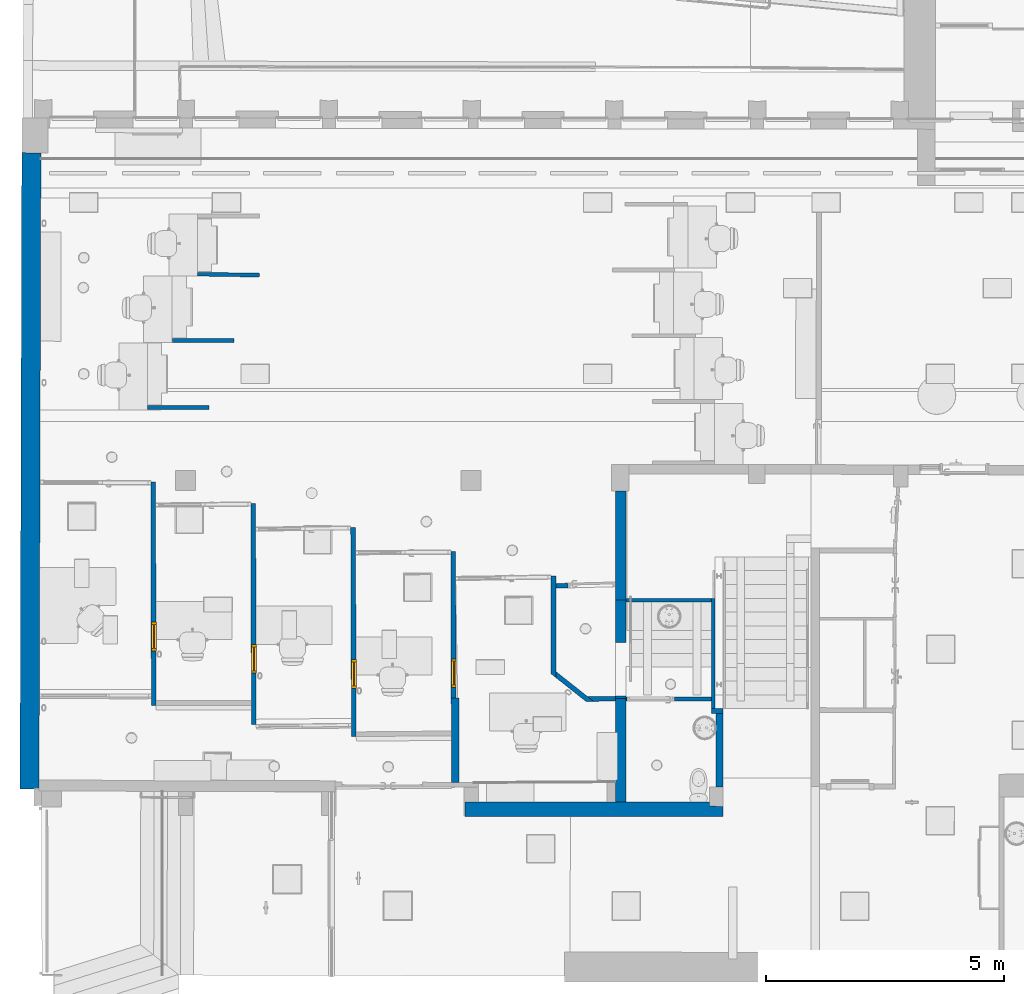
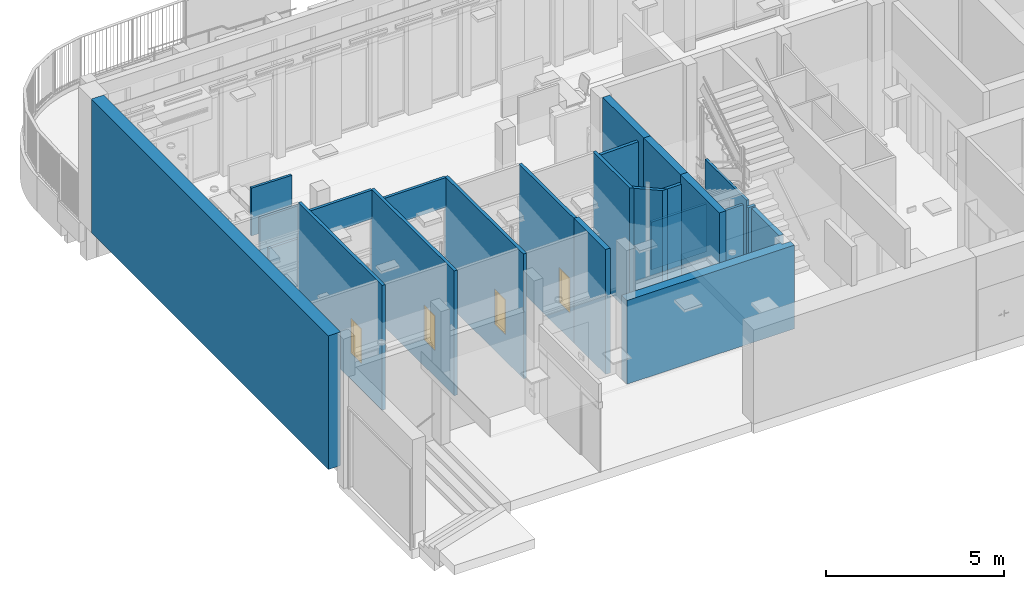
# One storey, part 26 of 128: 24 walls, 4 windows, 10 openings.
"""IFC2X3 building model written with IfcOpenShell, lengths in metres."""

import ifcopenshell
import ifcopenshell.guid

model = None  # the IFC model being written
_history = None  # IfcOwnerHistory: only IFC2X3 demands one
_inside = {}  # id of a spatial element -> (the spatial element, [elements in it])
_under = {}  # id of a project, library or spatial element -> (it, [spatial elements below it])
_declared = {}  # id of a project -> (the project, [libraries it declares])
_typed = {}  # id of a type object -> (the type object, [elements of that type])
_made_of = {}  # id of a material, layer set ... -> (it, [elements and type objects made of it])


def new_model(schema):
    """Start an empty IFC model of exactly this schema.

    Asked for "IFC4X3", IfcOpenShell would pick the latest addendum, in which some entities
    have other attributes; the version numbers below select the first issue.
    IFC2X3 requires an IfcOwnerHistory on every rooted entity: one is made here for all.
    """
    global model, _history
    if schema == "IFC4X3":
        model = ifcopenshell.file(schema_version=(4, 3, 0, 0))
    else:
        model = ifcopenshell.file(schema=schema)
    _inside.clear()
    _under.clear()
    _declared.clear()
    _typed.clear()
    _made_of.clear()
    _history = None
    if model.schema == "IFC2X3":
        org = make("IfcOrganization", Name="unknown")
        user = make(
            "IfcPersonAndOrganization",
            ThePerson=make("IfcPerson", FamilyName="unknown"),
            TheOrganization=org,
        )
        app = make(
            "IfcApplication",
            ApplicationDeveloper=org,
            Version="unknown",
            ApplicationFullName="unknown",
            ApplicationIdentifier="unknown",
        )
        _history = make(
            "IfcOwnerHistory",
            OwningUser=user,
            OwningApplication=app,
            ChangeAction="ADDED",
            CreationDate=0,
        )
    return model


def make(cls, **values):
    """One entity of the class cls with the attributes given. An attribute that is None is left unset."""
    return model.create_entity(
        cls, **{name: value for name, value in values.items() if value is not None}
    )


def entity(cls, *values):
    """Any entity or typed value of the class cls, its attributes in the order of the schema. None: left unset."""
    e = model.create_entity(cls)
    for i, value in enumerate(values):
        if value is not None:
            e[i] = value
    return e


def rooted(cls, **values):
    """An entity with a GlobalId (a new one), such as an element, a storey or a relation."""
    return make(cls, GlobalId=ifcopenshell.guid.new(), OwnerHistory=_history, **values)


def si_unit(unit_type, name, prefix=None):
    """IfcSIUnit, for example si_unit("LENGTHUNIT", "METRE", prefix="MILLI")."""
    return make("IfcSIUnit", UnitType=unit_type, Prefix=prefix, Name=name)


def converted_unit(unit_type, name, factor, base, dimensions=None, offset=None):
    """IfcConversionBasedUnit, such as the inch: factor (a typed value) times the base unit."""
    return make(
        "IfcConversionBasedUnit"
        if offset is None
        else "IfcConversionBasedUnitWithOffset",
        ConversionOffset=offset,
        Dimensions=None
        if dimensions is None
        else entity("IfcDimensionalExponents", *dimensions),
        UnitType=unit_type,
        Name=name,
        ConversionFactor=make(
            "IfcMeasureWithUnit", ValueComponent=factor, UnitComponent=base
        ),
    )


def derived_unit(unit_type, elements):
    """IfcDerivedUnit: a product of units, each with its exponent."""
    return make(
        "IfcDerivedUnit",
        Elements=[
            make("IfcDerivedUnitElement", Unit=unit, Exponent=power)
            for unit, power in elements
        ],
        UnitType=unit_type,
    )


def assignment(units):
    """IfcUnitAssignment: the units of a project."""
    return None if units is None else make("IfcUnitAssignment", Units=units)


def point(xyz):
    """IfcCartesianPoint."""
    return None if xyz is None else make("IfcCartesianPoint", Coordinates=xyz)


def direction(xyz):
    """IfcDirection."""
    return None if xyz is None else make("IfcDirection", DirectionRatios=xyz)


def frame(location, z_axis=None, x_axis=None):
    """IfcAxis2Placement3D, a coordinate frame: its origin and axes. An axis left out is left unset."""
    return make(
        "IfcAxis2Placement3D",
        Location=point(location),
        Axis=direction(z_axis),
        RefDirection=direction(x_axis),
    )


def frame_2d(location, x_axis=None):
    """IfcAxis2Placement2D, a coordinate frame in the plane: its origin and x axis."""
    return make(
        "IfcAxis2Placement2D", Location=point(location), RefDirection=direction(x_axis)
    )


def origin():
    """The frame at (0, 0, 0) with its axes left unset."""
    return frame((0.0, 0.0, 0.0))


def origin_2d_with_axis():
    """The frame at (0, 0) in the plane with the x axis (1, 0) written out."""
    return frame_2d((0.0, 0.0), x_axis=(1.0, 0.0))


def place(relative_to, where):
    """IfcLocalPlacement: puts the frame where relative to a parent placement (None: the world)."""
    return make(
        "IfcLocalPlacement", PlacementRelTo=relative_to, RelativePlacement=where
    )


def context(
    kind, dimensions, precision=None, world=None, true_north=None, identifier=None
):
    """IfcGeometricRepresentationContext, for example the 3D "Model" context."""
    return make(
        "IfcGeometricRepresentationContext",
        ContextIdentifier=identifier,
        ContextType=kind,
        CoordinateSpaceDimension=dimensions,
        Precision=precision,
        WorldCoordinateSystem=world,
        TrueNorth=true_north,
    )


def subcontext(parent, identifier, kind, view, scale=None):
    """IfcGeometricRepresentationSubContext, for example "Body" below "Model"."""
    return make(
        "IfcGeometricRepresentationSubContext",
        ContextIdentifier=identifier,
        ContextType=kind,
        ParentContext=parent,
        TargetScale=scale,
        TargetView=view,
    )


def project(units=None, contexts=None):
    """IfcProject with its units and contexts."""
    return rooted(
        "IfcProject",
        Name="project",
        RepresentationContexts=contexts,
        UnitsInContext=assignment(units),
    )


def spatial(cls, under=None, at=None, **own):
    """A site, building, storey or space (cls), placed at a placement, below another one or the project."""
    s = rooted(cls, ObjectPlacement=at, **own)
    if under is not None:
        _under.setdefault(under.id(), (under, []))[1].append(s)
    return s


def polyline(points):
    """IfcPolyline through the points."""
    return make("IfcPolyline", Points=[point(p) for p in points])


def profile(cls, at=None, kind="AREA", **sizes):
    """A parametric profile (cls). Its sizes go by their IFC names, for example OverallWidth=200.0."""
    return make(cls, ProfileType=kind, Position=at, **sizes)


def rectangle(**sizes):
    """IfcRectangleProfileDef."""
    return profile("IfcRectangleProfileDef", **sizes)


def outline(outer, holes=None, kind="AREA"):
    """IfcArbitraryClosedProfileDef: a profile drawn as a closed curve; with holes, ...WithVoids."""
    if holes is None:
        return make("IfcArbitraryClosedProfileDef", ProfileType=kind, OuterCurve=outer)
    return make(
        "IfcArbitraryProfileDefWithVoids",
        ProfileType=kind,
        OuterCurve=outer,
        InnerCurves=holes,
    )


def extrude(swept, where, along, depth):
    """IfcExtrudedAreaSolid: the profile swept, set in the frame where, extruded along a direction by depth."""
    return make(
        "IfcExtrudedAreaSolid",
        SweptArea=swept,
        Position=where,
        ExtrudedDirection=direction(along),
        Depth=depth,
    )


def clip(a, b, op="DIFFERENCE"):
    """IfcBooleanClippingResult: the solid a cut by the half space b."""
    return make(
        "IfcBooleanClippingResult", Operator=op, FirstOperand=a, SecondOperand=b
    )


def bounded_halfspace(plane, agree, where, boundary):
    """IfcPolygonalBoundedHalfSpace: a half space limited to a polygon's prism."""
    return make(
        "IfcPolygonalBoundedHalfSpace",
        BaseSurface=make("IfcPlane", Position=plane),
        AgreementFlag=agree,
        Position=where,
        PolygonalBoundary=boundary,
    )


def shape(context_of_items, identifier, shape_type, items):
    """IfcShapeRepresentation: the items that make up one representation, for example the "Body"."""
    return make(
        "IfcShapeRepresentation",
        ContextOfItems=context_of_items,
        RepresentationIdentifier=identifier,
        RepresentationType=shape_type,
        Items=items,
    )


def source(mapping_origin, context_of_items, identifier, shape_type, items):
    """IfcRepresentationMap: a shape defined once, which mapped items show again and again."""
    return make(
        "IfcRepresentationMap",
        MappingOrigin=mapping_origin,
        MappedRepresentation=shape(context_of_items, identifier, shape_type, items),
    )


def transform(
    local_origin,
    x_axis=None,
    y_axis=None,
    z_axis=None,
    scale=None,
    scale2=None,
    scale3=None,
    uniform=True,
):
    """IfcCartesianTransformationOperator3D, or its non-uniform kind. x_axis, y_axis, z_axis: its Axis1, 2, 3."""
    if uniform:
        return make(
            "IfcCartesianTransformationOperator3D",
            Axis1=direction(x_axis),
            Axis2=direction(y_axis),
            LocalOrigin=point(local_origin),
            Scale=scale,
            Axis3=direction(z_axis),
        )
    return make(
        "IfcCartesianTransformationOperator3DnonUniform",
        Axis1=direction(x_axis),
        Axis2=direction(y_axis),
        LocalOrigin=point(local_origin),
        Scale=scale,
        Axis3=direction(z_axis),
        Scale2=scale2,
        Scale3=scale3,
    )


def mapped(mapping_source, mapping_target):
    """IfcMappedItem: shows the shape of a source again, moved by a transform."""
    return make(
        "IfcMappedItem", MappingSource=mapping_source, MappingTarget=mapping_target
    )


def material(Name=None, Category=None):
    """IfcMaterial."""
    return make("IfcMaterial", Name=Name, Category=Category)


def material_list(materials):
    """IfcMaterialList."""
    return make("IfcMaterialList", Materials=materials)


def layer(
    of_material, thickness, ventilated=None, Name=None, Category=None, Priority=None
):
    """IfcMaterialLayer: one layer of a wall or slab, of a material (None: an air gap)."""
    return make(
        "IfcMaterialLayer",
        Material=of_material,
        LayerThickness=thickness,
        IsVentilated=ventilated,
        Name=Name,
        Category=Category,
        Priority=Priority,
    )


def layer_set(layers, Name=None):
    """IfcMaterialLayerSet."""
    return make("IfcMaterialLayerSet", MaterialLayers=layers, LayerSetName=Name)


def layer_usage(for_layer_set, set_direction, sense, offset, extent=None):
    """IfcMaterialLayerSetUsage: how a layer set lies in its element."""
    return make(
        "IfcMaterialLayerSetUsage",
        ForLayerSet=for_layer_set,
        LayerSetDirection=set_direction,
        DirectionSense=sense,
        OffsetFromReferenceLine=offset,
        ReferenceExtent=extent,
    )


def made_of(thing, what):
    """Note that an element or type object is made of a material, layer set ...; save() writes the relation."""
    if what is not None:
        _made_of.setdefault(what.id(), (what, []))[1].append(thing)
    return thing


def type_object(cls, material=None, **own):
    """A type object (cls), such as IfcWallType, which elements share."""
    return made_of(rooted(cls, **own), material)


def type_shapes(of_type, sources):
    """Give a type object the sources (RepresentationMaps) that its elements show as mapped items."""
    of_type.RepresentationMaps = sources


def element(
    cls,
    number,
    at=None,
    inside=None,
    cuts=None,
    type_object=None,
    material=None,
    context=None,
    identifier="Body",
    shape_type=None,
    held_by="IfcProductDefinitionShape",
    body=None,
    shapes=None,
    **own,
):
    """One element of the class cls, such as IfcWall. Its Tag is "e" and its number.

    at: its placement. inside: the storey or other place that contains it. cuts: it is an
    opening in that element (IfcRelVoidsElement). A single representation is given by context,
    identifier, shape_type and body (its items); several are given by shapes. held_by: the class
    of the entity that holds the representations. save() writes the other relations.
    """
    e = rooted(cls, Tag="e%d" % number, ObjectPlacement=at, **own)
    if body is not None:
        shapes = [shape(context, identifier, shape_type, body)]
    if shapes is not None:
        e.Representation = make(held_by, Representations=shapes)
    if inside is not None:
        _inside.setdefault(inside.id(), (inside, []))[1].append(e)
    if cuts is not None:
        rooted(
            "IfcRelVoidsElement", RelatingBuildingElement=cuts, RelatedOpeningElement=e
        )
    if type_object is not None:
        _typed.setdefault(type_object.id(), (type_object, []))[1].append(e)
    return made_of(e, material)


def fill(opening, filler):
    """IfcRelFillsElement: the door or window that sits in an opening."""
    return rooted(
        "IfcRelFillsElement",
        RelatingOpeningElement=opening,
        RelatedBuildingElement=filler,
    )


def aggregate(whole, parts):
    """IfcRelAggregates: a whole, such as a stair, and the parts it consists of."""
    return rooted("IfcRelAggregates", RelatingObject=whole, RelatedObjects=parts)


def save(model, path):
    """Write the relations noted so far, then the file.

    IfcRelAggregates (storeys below a building ...), IfcRelContainedInSpatialStructure (elements
    in a storey), IfcRelDefinesByType, IfcRelAssociatesMaterial and IfcRelDeclares: one each for
    every whole, place, type object, material and project.
    """
    for whole, parts in _under.values():
        aggregate(whole, parts)
    for where, things in _inside.values():
        rooted(
            "IfcRelContainedInSpatialStructure",
            RelatedElements=things,
            RelatingStructure=where,
        )
    for kind, things in _typed.values():
        rooted("IfcRelDefinesByType", RelatedObjects=things, RelatingType=kind)
    for what, things in _made_of.values():
        rooted("IfcRelAssociatesMaterial", RelatedObjects=things, RelatingMaterial=what)
    for by, libraries in _declared.values():
        rooted("IfcRelDeclares", RelatingContext=by, RelatedDefinitions=libraries)
    model.write(path)


model = new_model("IFC2X3")

# Units and contexts
model_context = context("Model", 3, precision=1e-05, world=origin(), true_north=direction((6.123031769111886e-17, 1.0)))
body_context = subcontext(model_context, "Body", "Model", "MODEL_VIEW")
ifc_project = project(units=[si_unit("LENGTHUNIT", "METRE"), si_unit("AREAUNIT", "SQUARE_METRE"), converted_unit("PLANEANGLEUNIT", "DEGREE", entity("IfcPlaneAngleMeasure", 0.017453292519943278), si_unit("PLANEANGLEUNIT", "RADIAN"), dimensions=[0, 0, 0, 0, 0, 0, 0]), derived_unit("THERMALTRANSMITTANCEUNIT", [(si_unit("MASSUNIT", "GRAM", prefix="KILO"), 1), (si_unit("THERMODYNAMICTEMPERATUREUNIT", "KELVIN"), -1), (si_unit("TIMEUNIT", "SECOND"), -3)])], contexts=[model_context])

# Site, building, storey
site_placement = place(None, origin())
site = spatial("IfcSite", under=ifc_project, at=site_placement, Name="Default", CompositionType="ELEMENT")
building_placement = place(site_placement, origin())
building = spatial("IfcBuilding", under=site, at=building_placement, CompositionType="ELEMENT")
storey_placement = place(building_placement, origin())
storey = spatial("IfcBuildingStorey", under=building, at=storey_placement, Name="00_RDC CAF", CompositionType="ELEMENT", Elevation=2.4982504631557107e-13)

# Wall
ifc_material_1 = material(Name="STR - Beton Mur")
ifc_layer_1 = layer(ifc_material_1, 0.4)
ifc_layer_set_1 = layer_set([ifc_layer_1], Name="Mur de base:M_Ext_Beton_400mm")
ifc_layer_usage_1 = layer_usage(ifc_layer_set_1, "AXIS2", "POSITIVE", -0.2)
wall_type_1 = type_object("IfcWallType", Name="Mur de base:M_Ext_Beton_400mm", PredefinedType="STANDARD", material=ifc_layer_set_1)
wall_1_placement = place(storey_placement, frame((6.49945814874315, 143.43529037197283, 0.0), z_axis=(0.0, 0.0, 1.0), x_axis=(-0.0028985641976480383, -0.9999957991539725, 0.0)))
element("IfcWallStandardCase", 1, at=wall_1_placement, inside=storey, type_object=wall_type_1, material=ifc_layer_usage_1, Name="Mur de base:M_Ext_Beton_400mm", ObjectType="Mur de base:M_Ext_Beton_400mm", context=body_context, shape_type="SweptSolid", body=[
    extrude(rectangle(XDim=13.369481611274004, YDim=0.39999999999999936, at=frame_2d((6.684740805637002, -1.3877787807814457e-17), x_axis=(-1.0, 0.0))), origin(), (0.0, 0.0, 1.0), 4.5779999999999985),
])

# Wall, opening, window
ifc_material_2 = material(Name="ARC - Cloison")
ifc_layer_2 = layer(ifc_material_2, 0.1)
ifc_layer_set_2 = layer_set([ifc_layer_2], Name="Mur de base:Cl_Platre_100mm")
ifc_layer_usage_2 = layer_usage(ifc_layer_set_2, "AXIS2", "POSITIVE", -0.05)
wall_type_2 = type_object("IfcWallType", Name="Mur de base:Cl_Platre_100mm", PredefinedType="STANDARD", material=ifc_layer_set_2)
wall_2_placement = place(storey_placement, frame((9.058409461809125, 136.51696973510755, 0.0), z_axis=(0.0, 0.0, 1.0), x_axis=(0.002732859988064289, -0.9999962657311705, 0.0)))
wall_2 = element("IfcWallStandardCase", 2, at=wall_2_placement, inside=storey, type_object=wall_type_2, material=ifc_layer_usage_2, Name="Mur de base:Cl_Platre_100mm", ObjectType="Mur de base:Cl_Platre_100mm", context=body_context, shape_type="SweptSolid", body=[
    extrude(rectangle(XDim=4.692367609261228, YDim=0.10000000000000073, at=frame_2d((2.346183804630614, -6.591949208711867e-17), x_axis=(-1.0, 0.0))), origin(), (0.0, 0.0, 1.0), 4.277999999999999),
])
opening_1_placement = place(wall_2_placement, frame((3.5460963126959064, 0.05000000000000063, 0.9000000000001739)))
opening_1 = element("IfcOpeningElement", 3, at=opening_1_placement, cuts=wall_2, Name="F_1V:F_Int_1V_Fixe:1", ObjectType="Opening", context=body_context, shape_type="SweptSolid", body=[
    extrude(rectangle(XDim=1.200000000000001, YDim=0.5999999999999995, at=frame_2d((0.6000000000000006, 0.29999999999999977), x_axis=(1.0, 0.0))), frame((0.0, 0.0, 0.0), z_axis=(0.0, -1.0, 0.0), x_axis=(0.0, 0.0, 1.0)), (0.0, 0.0, 1.0), 0.09999999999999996),
])
ifc_material_3 = material(Name="ARC - M.In - Verre")
ifc_material_4 = material(Name="ARC - M.In - Blanc")
ifc_material_list = material_list([ifc_material_3, ifc_material_4])
window_style = type_object("IfcWindowStyle", Name="F_1V:F_Int_1V_Fixe", ConstructionType="NOTDEFINED", OperationType="NOTDEFINED", ParameterTakesPrecedence=False, Sizeable=False, material=ifc_material_list)
shared_shape = source(origin(), body_context, "Body", "SweptSolid", [
    extrude(rectangle(XDim=0.5000000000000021, YDim=0.019999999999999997, at=origin_2d_with_axis()), frame((0.2999999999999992, 0.05000000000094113, 0.05), z_axis=(0.0, 0.0, 1.0), x_axis=(-1.0, 0.0, 0.0)), (0.0, 0.0, 1.0), 1.1000000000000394),
    extrude(outline(polyline([(-0.6000000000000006, -0.29999999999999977), (0.6000000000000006, -0.29999999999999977), (0.6000000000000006, 0.29999999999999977), (-0.6000000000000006, 0.29999999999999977), (-0.6000000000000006, -0.29999999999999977)]), holes=[polyline([(-0.5500000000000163, -0.2500000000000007), (-0.5500000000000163, 0.2500000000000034), (0.5499999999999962, 0.2500000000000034), (0.5499999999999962, -0.2500000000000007), (-0.5500000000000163, -0.2500000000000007)])]), frame((0.2999999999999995, 0.0, 0.6000000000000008), z_axis=(0.0, 1.0, 0.0), x_axis=(0.0, 0.0, -1.0)), (0.0, 0.0, 1.0), 0.09999999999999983),
])
type_shapes(window_style, [shared_shape])
window_1_placement = place(opening_1_placement, frame((-0.5998743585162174, -0.09194854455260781, 0.0)))
window_1 = element("IfcWindow", 4, at=window_1_placement, inside=storey, type_object=window_style, material=ifc_material_list, Name="F_1V:F_Int_1V_Fixe", ObjectType="F_1V:F_Int_1V_Fixe", OverallHeight=1.2000000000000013, OverallWidth=0.5999999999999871, context=body_context, shape_type="MappedRepresentation", body=[
    mapped(shared_shape, transform((0.0, 0.0, 0.0), scale=1.0)),
])
fill(opening_1, window_1)

ifc_layer_usage_3 = layer_usage(ifc_layer_set_2, "AXIS2", "POSITIVE", -0.05)
wall_3_placement = place(storey_placement, frame((11.161142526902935, 136.0635300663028, 0.0), z_axis=(0.0, 0.0, 1.0), x_axis=(0.002732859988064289, -0.9999962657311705, 0.0)))
wall_3 = element("IfcWallStandardCase", 5, at=wall_3_placement, inside=storey, type_object=wall_type_2, material=ifc_layer_usage_3, Name="Mur de base:Cl_Platre_100mm", ObjectType="Mur de base:Cl_Platre_100mm", context=body_context, shape_type="SweptSolid", body=[
    extrude(outline(polyline([(4.63820283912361, -0.049999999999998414), (4.637498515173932, 0.050000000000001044), (4.5875098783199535, 0.04999999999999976), (0.5823628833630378, 0.05000000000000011), (0.4923604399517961, 0.05), (0.0, 0.05000000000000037), (0.0, -0.05000000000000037), (0.054864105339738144, -0.04999999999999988), (4.141183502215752, -0.04999999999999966), (4.2411845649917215, -0.0500000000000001), (4.63820283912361, -0.049999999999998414)])), origin(), (0.0, 0.0, 1.0), 4.277999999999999),
])
opening_2_placement = place(wall_3_placement, frame((3.5639728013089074, 0.050000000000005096, 0.9000000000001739)))
opening_2 = element("IfcOpeningElement", 6, at=opening_2_placement, cuts=wall_3, Name="F_1V:F_Int_1V_Fixe:1", ObjectType="Opening", context=body_context, shape_type="SweptSolid", body=[
    extrude(rectangle(XDim=1.200000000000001, YDim=0.5999999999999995, at=frame_2d((0.6000000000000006, 0.29999999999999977), x_axis=(1.0, 0.0))), frame((0.0, 0.0, 0.0), z_axis=(0.0, -1.0, 0.0), x_axis=(0.0, 0.0, 1.0)), (0.0, 0.0, 1.0), 0.09999999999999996),
])
window_2_placement = place(opening_2_placement, frame((-0.5998744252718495, -0.09189969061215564, 0.0)))
window_2 = element("IfcWindow", 7, at=window_2_placement, inside=storey, type_object=window_style, material=ifc_material_list, Name="F_1V:F_Int_1V_Fixe", ObjectType="F_1V:F_Int_1V_Fixe", OverallHeight=1.2000000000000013, OverallWidth=0.5999999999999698, context=body_context, shape_type="MappedRepresentation", body=[
    mapped(shared_shape, transform((0.0, 0.0, 0.0), scale=1.0)),
])
fill(opening_2, window_2)

ifc_layer_usage_4 = layer_usage(ifc_layer_set_2, "AXIS2", "POSITIVE", -0.05)
wall_4_placement = place(storey_placement, frame((13.25991814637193, 135.56018176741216, 0.0), z_axis=(0.0, 0.0, 1.0), x_axis=(0.0034464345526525, -0.9999940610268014, 0.0)))
wall_4 = element("IfcWallStandardCase", 8, at=wall_4_placement, inside=storey, type_object=wall_type_2, material=ifc_layer_usage_4, Name="Mur de base:Cl_Platre_100mm", ObjectType="Mur de base:Cl_Platre_100mm", context=body_context, shape_type="SweptSolid", body=[
    extrude(outline(polyline([(4.393131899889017, -0.05000000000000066), (4.39258259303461, 0.05000000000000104), (4.2925810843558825, 0.04999999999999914), (0.5731268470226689, 0.05000000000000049), (0.4831266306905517, 0.05000000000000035), (0.0, 0.049999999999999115), (0.0, -0.05000000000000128), (0.05852650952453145, -0.04999999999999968), (4.014291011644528, -0.050000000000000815), (4.0641806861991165, -0.05000000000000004), (4.393131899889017, -0.05000000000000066)])), origin(), (0.0, 0.0, 1.0), 4.277999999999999),
])
opening_3_placement = place(wall_4_placement, frame((3.3772673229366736, 0.05000000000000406, 0.9000000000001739)))
opening_3 = element("IfcOpeningElement", 9, at=opening_3_placement, cuts=wall_4, Name="F_1V:F_Int_1V_Fixe:1", ObjectType="Opening", context=body_context, shape_type="SweptSolid", body=[
    extrude(rectangle(XDim=1.200000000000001, YDim=0.5999999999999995, at=frame_2d((0.6000000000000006, 0.29999999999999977), x_axis=(1.0, 0.0))), frame((0.0, 0.0, 0.0), z_axis=(0.0, -1.0, 0.0), x_axis=(0.0, 0.0, 1.0)), (0.0, 0.0, 1.0), 0.1),
])
window_3_placement = place(opening_3_placement, frame((-0.5998441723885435, -0.09042803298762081, 0.0)))
window_3 = element("IfcWindow", 10, at=window_3_placement, inside=storey, type_object=window_style, material=ifc_material_list, Name="F_1V:F_Int_1V_Fixe", ObjectType="F_1V:F_Int_1V_Fixe", OverallHeight=1.2000000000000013, OverallWidth=0.5999999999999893, context=body_context, shape_type="MappedRepresentation", body=[
    mapped(shared_shape, transform((0.0, 0.0, 0.0), scale=1.0)),
])
fill(opening_3, window_3)

ifc_layer_usage_5 = layer_usage(ifc_layer_set_2, "AXIS2", "POSITIVE", -0.05)
wall_5_placement = place(storey_placement, frame((15.363739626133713, 135.05298648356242, 0.0), z_axis=(0.0, 0.0, 1.0), x_axis=(0.002616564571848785, -0.9999965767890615, 0.0)))
wall_5 = element("IfcWallStandardCase", 11, at=wall_5_placement, inside=storey, type_object=wall_type_2, material=ifc_layer_usage_5, Name="Mur de base:Cl_Platre_100mm", ObjectType="Mur de base:Cl_Platre_100mm", context=body_context, shape_type="SweptSolid", body=[
    extrude(rectangle(XDim=3.075706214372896, YDim=0.10000000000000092, at=frame_2d((1.5378531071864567, -1.366962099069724e-15), x_axis=(-1.0, 0.0))), origin(), (0.0, 0.0, 1.0), 4.278),
])
opening_4_placement = place(wall_5_placement, frame((2.850610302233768, 0.04999999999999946, 0.9000000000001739)))
opening_4 = element("IfcOpeningElement", 12, at=opening_4_placement, cuts=wall_5, Name="F_1V:F_Int_1V_Fixe:1", ObjectType="Opening", context=body_context, shape_type="SweptSolid", body=[
    extrude(rectangle(XDim=1.200000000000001, YDim=0.5999999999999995, at=frame_2d((0.6000000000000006, 0.29999999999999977), x_axis=(1.0, 0.0))), frame((0.0, 0.0, 0.0), z_axis=(0.0, -1.0, 0.0), x_axis=(0.0, 0.0, 1.0)), (0.0, 0.0, 1.0), 0.1),
])
window_4_placement = place(opening_4_placement, frame((-0.5998768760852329, -0.0941109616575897, 0.0)))
window_4 = element("IfcWindow", 13, at=window_4_placement, inside=storey, type_object=window_style, material=ifc_material_list, Name="F_1V:F_Int_1V_Fixe", ObjectType="F_1V:F_Int_1V_Fixe", OverallHeight=1.2000000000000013, OverallWidth=0.6000000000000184, context=body_context, shape_type="MappedRepresentation", body=[
    mapped(shared_shape, transform((0.0, 0.0, 0.0), scale=1.0)),
])
fill(opening_4, window_4)

# Walls
ifc_layer_usage_6 = layer_usage(ifc_layer_set_2, "AXIS2", "POSITIVE", -0.05)
wall_6_placement = place(storey_placement, frame((17.46897850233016, 134.53775068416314, 0.0), z_axis=(0.0, 0.0, 1.0), x_axis=(0.0, -1.0, 0.0)))
element("IfcWallStandardCase", 14, at=wall_6_placement, inside=storey, type_object=wall_type_2, material=ifc_layer_usage_6, Name="Mur de base:Cl_Platre_100mm", ObjectType="Mur de base:Cl_Platre_100mm", context=body_context, shape_type="SweptSolid", body=[
    extrude(outline(polyline([(2.0500000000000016, -0.049999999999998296), (2.129056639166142, 0.05000000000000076), (2.00158133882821, 0.050000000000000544), (0.2527743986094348, 0.04999999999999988), (0.15274109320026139, 0.049999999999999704), (0.0, 0.04999999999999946), (0.0, -0.04999999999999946), (2.0500000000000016, -0.049999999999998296)])), origin(), (0.0, 0.0, 1.0), 4.2780000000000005),
])
ifc_layer_usage_7 = layer_usage(ifc_layer_set_2, "AXIS2", "POSITIVE", -0.05)
wall_7_placement = place(storey_placement, frame((17.48796989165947, 132.49694606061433, 0.0), z_axis=(0.0, 0.0, 1.0), x_axis=(0.7844656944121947, -0.6201722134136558, 0.0)))
element("IfcWallStandardCase", 15, at=wall_7_placement, inside=storey, type_object=wall_type_2, material=ifc_layer_usage_7, Name="Mur de base:Cl_Platre_100mm", ObjectType="Mur de base:Cl_Platre_100mm", context=body_context, shape_type="SweptSolid", body=[
    extrude(outline(polyline([(0.8888495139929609, -0.04999999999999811), (1.0115107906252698, 0.04999999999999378), (0.8532521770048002, 0.049999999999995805), (0.0, 0.04999999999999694), (0.07905663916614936, -0.05000000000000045), (0.8888495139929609, -0.04999999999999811)])), origin(), (0.0, 0.0, 1.0), 4.278),
])
ifc_layer_usage_8 = layer_usage(ifc_layer_set_2, "AXIS2", "POSITIVE", -0.05)
wall_8_placement = place(storey_placement, frame((18.189076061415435, 131.95701168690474, 0.0), z_axis=(0.0, 0.0, 1.0), x_axis=(0.9998873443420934, 0.015009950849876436, 0.0)))
element("IfcWallStandardCase", 16, at=wall_8_placement, inside=storey, type_object=wall_type_2, material=ifc_layer_usage_8, Name="Mur de base:Cl_Platre_100mm", ObjectType="Mur de base:Cl_Platre_100mm", context=body_context, shape_type="SweptSolid", body=[
    extrude(outline(polyline([(0.5809530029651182, -0.04999999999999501), (0.5824541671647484, 0.049999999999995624), (0.0, 0.050000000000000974), (0.12266127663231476, -0.050000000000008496), (0.5809530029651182, -0.04999999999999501)])), origin(), (0.0, 0.0, 1.0), 4.277999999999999),
])

# Wall, opening
ifc_layer_usage_9 = layer_usage(ifc_layer_set_2, "AXIS2", "NEGATIVE", 0.05)
wall_9_placement = place(storey_placement, frame((17.517688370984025, 134.3349596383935, 0.0), z_axis=(0.0, 0.0, 1.0), x_axis=(0.9996670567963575, 0.025802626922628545, 0.0)))
wall_9 = element("IfcWallStandardCase", 17, at=wall_9_placement, inside=storey, type_object=wall_type_2, material=ifc_layer_usage_9, Name="Mur de base:Cl_Platre_100mm", ObjectType="Mur de base:Cl_Platre_100mm", context=body_context, shape_type="SweptSolid", body=[
    extrude(outline(polyline([(0.0, -0.04999999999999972), (1.252152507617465, -0.05000000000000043), (1.2547336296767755, 0.04999999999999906), (0.002581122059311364, 0.04999999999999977), (0.0, -0.04999999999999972)])), origin(), (0.0, 0.0, 1.0), 4.278),
])
opening_5_placement = place(wall_9_placement, frame((0.25329704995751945, -0.04999999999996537, 0.0)))
element("IfcOpeningElement", 18, at=opening_5_placement, cuts=wall_9, Name="P_Tunnel_Simple:P_Int_Simple_Pleine_930x2090mm:1", ObjectType="Opening", context=body_context, shape_type="SweptSolid", body=[
    extrude(rectangle(XDim=2.1249999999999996, YDim=1.0, at=frame_2d((1.0624999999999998, 0.5), x_axis=(1.0, 0.0))), frame((0.0, 0.0, 0.0), z_axis=(0.0, 1.0, 0.0), x_axis=(0.0, 0.0, 1.0)), (0.0, 0.0, 1.0), 0.09999999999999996),
])

# Walls
ifc_layer_usage_10 = layer_usage(ifc_layer_set_2, "AXIS2", "POSITIVE", -0.05)
wall_10_placement = place(storey_placement, frame((21.029127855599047, 131.70348300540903, 0.0), z_axis=(0.0, 0.0, 1.0), x_axis=(-1.0, 0.0, 0.0)))
element("IfcWallStandardCase", 19, at=wall_10_placement, inside=storey, type_object=wall_type_2, material=ifc_layer_usage_10, Name="Mur de base:Cl_Platre_100mm", ObjectType="Mur de base:Cl_Platre_100mm", context=body_context, shape_type="SweptSolid", body=[
    extrude(rectangle(XDim=0.24260587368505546, YDim=0.10000000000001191, at=frame_2d((0.12130293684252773, 0.0), x_axis=(-1.0, 0.0))), origin(), (0.0, 0.0, 1.0), 2.9193846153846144),
])
ifc_layer_3 = layer(ifc_material_1, 0.29999999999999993)
ifc_layer_set_3 = layer_set([ifc_layer_3], Name="Mur de base:M_Int_Beton_300mm")
ifc_layer_usage_11 = layer_usage(ifc_layer_set_3, "AXIS2", "NEGATIVE", 0.14999999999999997)
wall_type_3 = type_object("IfcWallType", Name="Mur de base:M_Int_Beton_300mm", PredefinedType="STANDARD", material=ifc_layer_set_3)
wall_11_placement = place(storey_placement, frame((15.60618790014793, 129.6403558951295, 0.0)))
element("IfcWallStandardCase", 20, at=wall_11_placement, inside=storey, type_object=wall_type_3, material=ifc_layer_usage_11, Name="Mur de base:M_Int_Beton_300mm", ObjectType="Mur de base:M_Int_Beton_300mm", context=body_context, shape_type="Clipping", body=[
    clip(clip(clip(extrude(rectangle(XDim=5.4221911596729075, YDim=0.3000000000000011, at=frame_2d((2.7110955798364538, 0.0), x_axis=(-1.0, 0.0))), origin(), (0.0, 0.0, 1.0), 2.8694000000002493), bounded_halfspace(frame((2.2233605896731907, -0.15000000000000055, 2.869400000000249), z_axis=(0.0, 0.0, -1.0), x_axis=(0.999997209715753, -0.002362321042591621, 0.0)), True, frame((2.2233605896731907, -0.15000000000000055, 2.869400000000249)), polyline([(0.0, 0.0), (3.198830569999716, 0.0), (3.198830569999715, 0.21357313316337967), (2.919000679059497, 0.21431754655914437), (2.919228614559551, 0.3000000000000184), (0.9411656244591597, 0.2999999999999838), (0.7691356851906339, 0.2999999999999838), (0.001843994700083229, 0.3000000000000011), (0.0, 0.0)]))), bounded_halfspace(frame((5.142361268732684, 0.06431754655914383, 2.8694000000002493), z_axis=(-0.9999964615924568, 0.0026602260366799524, 0.0), x_axis=(0.0, 0.0, -1.0)), True, frame((5.142361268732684, 0.06431754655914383, 2.8694000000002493), z_axis=(-0.9999964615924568, 0.0026602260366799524, 0.0), x_axis=(0.0, 0.0, -1.0)), polyline([(0.0, 0.0), (0.0, -0.0856827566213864), (2.8694000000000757, -0.08568275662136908), (2.8694000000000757, 0.0), (0.0, 0.0)]))), bounded_halfspace(frame((5.142361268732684, 0.06431754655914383, 0.0), z_axis=(-0.0026602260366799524, -0.9999964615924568, 0.0), x_axis=(0.0, 0.0, -1.0)), True, frame((5.142361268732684, 0.06431754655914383, 0.0), z_axis=(-0.0026602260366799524, -0.9999964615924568, 0.0), x_axis=(0.0, 0.0, -1.0)), polyline([(0.0, 0.0), (0.0, 0.27983088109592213), (-2.8694000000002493, 0.27983088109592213), (-2.8694000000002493, 0.0), (0.0, 0.0)]))),
])

# Wall, opening
ifc_layer_4 = layer(ifc_material_1, 0.22499999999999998)
ifc_layer_set_4 = layer_set([ifc_layer_4], Name="Mur de base:M_Int_Beton_225mm")
ifc_layer_usage_12 = layer_usage(ifc_layer_set_4, "AXIS2", "POSITIVE", -0.11249999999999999)
wall_type_4 = type_object("IfcWallType", Name="Mur de base:M_Int_Beton_225mm", PredefinedType="STANDARD", material=ifc_layer_set_4)
wall_12_placement = place(storey_placement, frame((18.883214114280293, 136.3324740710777, 0.0), z_axis=(0.0, 0.0, 1.0), x_axis=(0.0, -1.0, 0.0)))
wall_12 = element("IfcWallStandardCase", 21, at=wall_12_placement, inside=storey, type_object=wall_type_4, material=ifc_layer_usage_12, Name="Mur de base:M_Int_Beton_225mm", ObjectType="Mur de base:M_Int_Beton_225mm", context=body_context, shape_type="Clipping", body=[
    clip(extrude(rectangle(XDim=2.2995910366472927, YDim=0.22500000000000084, at=frame_2d((1.1497955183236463, -3.8163916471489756e-16), x_axis=(-1.0, 0.0))), origin(), (0.0, 0.0, 1.0), 4.577999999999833), bounded_halfspace(frame((0.0, -0.1125000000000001, 0.0), z_axis=(1.0, 0.0, 0.0), x_axis=(0.0, 0.0, -1.0)), True, frame((0.0, -0.1125000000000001, 0.0), z_axis=(1.0, 0.0, 0.0), x_axis=(0.0, 0.0, -1.0)), polyline([(0.0, 0.0), (0.0, 0.22500000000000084), (-4.577999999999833, 0.22500000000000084), (-4.577999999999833, 0.0), (0.0, 0.0)]))),
])
opening_6_placement = place(wall_12_placement, origin())
element("IfcOpeningElement", 22, at=opening_6_placement, cuts=wall_12, Name="Mur de base:M_Int_Beton_225mm", ObjectType="Opening", context=body_context, shape_type="SweptSolid", body=[
    extrude(rectangle(XDim=2.1249999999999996, YDim=0.09999999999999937, at=frame_2d((3.122502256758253e-17, 0.0), x_axis=(0.0, 1.0))), frame((1.990978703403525, -1.112313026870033, 1.0624999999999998), z_axis=(-0.025802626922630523, 0.9996670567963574, 0.0), x_axis=(0.9996670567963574, 0.025802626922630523, 0.0)), (0.0, 0.0, 1.0), 1.0000000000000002),
])

ifc_layer_usage_13 = layer_usage(ifc_layer_set_4, "AXIS2", "POSITIVE", -0.11249999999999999)
wall_13_placement = place(storey_placement, frame((18.88321411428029, 134.0328830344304, 0.0), z_axis=(0.0, 0.0, 1.0), x_axis=(0.0, -1.0, 0.0)))
wall_13 = element("IfcWallStandardCase", 23, at=wall_13_placement, inside=storey, type_object=wall_type_4, material=ifc_layer_usage_13, Name="Mur de base:M_Int_Beton_225mm", ObjectType="Mur de base:M_Int_Beton_225mm", context=body_context, shape_type="SweptSolid", body=[
    extrude(rectangle(XDim=2.065451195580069, YDim=0.22500000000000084, at=frame_2d((1.032725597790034, 5.204170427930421e-16), x_axis=(1.0, 0.0))), origin(), (0.0, 0.0, 1.0), 4.577999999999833),
])
opening_7_placement = place(wall_13_placement, origin())
element("IfcOpeningElement", 24, at=opening_7_placement, cuts=wall_13, Name="Mur de base:M_Int_Beton_225mm", ObjectType="Opening", context=body_context, shape_type="SweptSolid", body=[
    extrude(rectangle(XDim=2.0299999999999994, YDim=1.130000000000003, at=frame_2d((0.0, -8.659739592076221e-15), x_axis=(1.0, 0.0))), frame((1.4515973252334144, -1.4114999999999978, 1.0149999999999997), z_axis=(0.0, 1.0, 0.0), x_axis=(0.0, 0.0, -1.0)), (0.0, 0.0, 1.0), 3.0479999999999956),
])

# Wall
ifc_layer_usage_14 = layer_usage(ifc_layer_set_4, "AXIS2", "POSITIVE", -0.11249999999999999)
wall_14_placement = place(storey_placement, frame((18.883214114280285, 131.96743183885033, 0.0), z_axis=(0.0, 0.0, 1.0), x_axis=(0.0, -1.0, 0.0)))
element("IfcWallStandardCase", 25, at=wall_14_placement, inside=storey, type_object=wall_type_4, material=ifc_layer_usage_14, Name="Mur de base:M_Int_Beton_225mm", ObjectType="Mur de base:M_Int_Beton_225mm", context=body_context, shape_type="SweptSolid", body=[
    extrude(rectangle(XDim=2.177075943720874, YDim=0.2250000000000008, at=frame_2d((1.088537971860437, -4.787836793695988e-16), x_axis=(-1.0, 0.0))), origin(), (0.0, 0.0, 1.0), 4.577999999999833),
])

# Wall, opening
ifc_layer_5 = layer(ifc_material_2, 0.08)
ifc_layer_set_5 = layer_set([ifc_layer_5], Name="Mur de base:Cl_Platre_80mm")
ifc_layer_usage_15 = layer_usage(ifc_layer_set_5, "AXIS2", "NEGATIVE", 0.04)
wall_type_5 = type_object("IfcWallType", Name="Mur de base:Cl_Platre_80mm", PredefinedType="STANDARD", material=ifc_layer_set_5)
wall_15_placement = place(storey_placement, frame((18.995714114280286, 131.96060398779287, 0.0)))
wall_15 = element("IfcWallStandardCase", 26, at=wall_15_placement, inside=storey, type_object=wall_type_5, material=ifc_layer_usage_15, Name="Mur de base:Cl_Platre_80mm", ObjectType="Mur de base:Cl_Platre_80mm", context=body_context, shape_type="SweptSolid", body=[
    extrude(rectangle(XDim=1.7908078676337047, YDim=0.08000000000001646, at=frame_2d((0.8954039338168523, 0.0), x_axis=(-1.0, 0.0))), origin(), (0.0, 0.0, 1.0), 2.8693846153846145),
])
opening_8_placement = place(wall_15_placement, frame((1.020807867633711, 0.04000000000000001, 0.0)))
element("IfcOpeningElement", 27, at=opening_8_placement, cuts=wall_15, Name="P_Tunnel_Simple:P_Int_Simple_Pleine_930x2090mm:1", ObjectType="Opening", context=body_context, shape_type="SweptSolid", body=[
    extrude(rectangle(XDim=2.1249999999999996, YDim=1.0, at=frame_2d((1.0624999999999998, 0.5000000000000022), x_axis=(1.0, 0.0))), frame((0.0, 0.0, 0.0), z_axis=(0.0, -1.0, 0.0), x_axis=(0.0, 0.0, 1.0)), (0.0, 0.0, 1.0), 0.08),
])

# Walls
ifc_layer_usage_16 = layer_usage(ifc_layer_set_5, "AXIS2", "POSITIVE", -0.04)
wall_16_placement = place(storey_placement, frame((20.826521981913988, 131.753483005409, 0.0), z_axis=(0.0, 0.0, 1.0), x_axis=(0.0, 1.0, 0.0)))
element("IfcWallStandardCase", 28, at=wall_16_placement, inside=storey, type_object=wall_type_5, material=ifc_layer_usage_16, Name="Mur de base:Cl_Platre_80mm", ObjectType="Mur de base:Cl_Platre_80mm", context=body_context, shape_type="SweptSolid", body=[
    extrude(rectangle(XDim=2.3194000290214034, YDim=0.07999999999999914, at=frame_2d((1.1597000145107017, 0.0), x_axis=(-1.0, 0.0))), origin(), (0.0, 0.0, 1.0), 3.1193846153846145),
])
ifc_layer_usage_17 = layer_usage(ifc_layer_set_5, "AXIS2", "NEGATIVE", 0.04)
wall_17_placement = place(storey_placement, frame((18.99571411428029, 134.0328830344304, 0.0)))
element("IfcWallStandardCase", 29, at=wall_17_placement, inside=storey, type_object=wall_type_5, material=ifc_layer_usage_17, Name="Mur de base:Cl_Platre_80mm", ObjectType="Mur de base:Cl_Platre_80mm", context=body_context, shape_type="SweptSolid", body=[
    extrude(rectangle(XDim=1.7908078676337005, YDim=0.08000000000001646, at=frame_2d((0.8954039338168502, 0.0), x_axis=(-1.0, 0.0))), origin(), (0.0, 0.0, 1.0), 1.636846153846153),
])
ifc_layer_6 = layer(ifc_material_1, 0.14)
ifc_layer_set_6 = layer_set([ifc_layer_6], Name="Mur de base:M_Int_Beton_140mm")
ifc_layer_usage_18 = layer_usage(ifc_layer_set_6, "AXIS2", "POSITIVE", -0.07)
wall_type_6 = type_object("IfcWallType", Name="Mur de base:M_Int_Beton_140mm", PredefinedType="STANDARD", material=ifc_layer_set_6)
wall_18_placement = place(storey_placement, frame((20.959127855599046, 130.1041146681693, 0.0), z_axis=(0.0, 0.0, 1.0), x_axis=(0.0, 1.0, 0.0)))
element("IfcWallStandardCase", 30, at=wall_18_placement, inside=storey, type_object=wall_type_6, material=ifc_layer_usage_18, Name="Mur de base:M_Int_Beton_140mm", ObjectType="Mur de base:M_Int_Beton_140mm", context=body_context, shape_type="SweptSolid", body=[
    extrude(rectangle(XDim=1.549368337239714, YDim=0.14000000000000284, at=frame_2d((0.774684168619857, 8.673617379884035e-16), x_axis=(-1.0, 0.0))), origin(), (0.0, 0.0, 1.0), 2.8693846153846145),
])

# Wall, opening
ifc_layer_7 = layer(ifc_material_2, 0.09)
ifc_layer_set_7 = layer_set([ifc_layer_7], Name="Mur de base:Cl_Platre_90mm")
ifc_layer_usage_19 = layer_usage(ifc_layer_set_7, "AXIS2", "NEGATIVE", 0.045)
wall_type_7 = type_object("IfcWallType", Name="Mur de base:Cl_Platre_90mm", PredefinedType="STANDARD", material=ifc_layer_set_7)
wall_19_placement = place(storey_placement, frame((9.109399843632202, 136.03330901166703, 0.0), z_axis=(0.0, 0.0, 1.0), x_axis=(0.9999489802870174, 0.010101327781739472, 0.0)))
wall_19 = element("IfcWallStandardCase", 31, at=wall_19_placement, inside=storey, type_object=wall_type_7, material=ifc_layer_usage_19, Name="Mur de base:Cl_Platre_90mm", ObjectType="Mur de base:Cl_Platre_90mm", context=body_context, shape_type="SweptSolid", body=[
    extrude(outline(polyline([(0.0, -0.045000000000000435), (2.0015403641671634, -0.0449999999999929), (2.0019446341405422, 0.009862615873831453), (2.002203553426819, 0.04500000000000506), (0.000663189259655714, 0.044999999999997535), (0.0, -0.045000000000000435)])), origin(), (0.0, 0.0, 1.0), 4.277999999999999),
])
opening_9_placement = place(wall_19_placement, origin())
element("IfcOpeningElement", 32, at=opening_9_placement, cuts=wall_19, Name="Mur de base:Cl_Platre_90mm", ObjectType="Opening", context=body_context, shape_type="SweptSolid", body=[
    extrude(rectangle(XDim=3.294999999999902, YDim=2.001540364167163, at=frame_2d((-1.1102230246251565e-15, 0.0), x_axis=(0.0, 1.0))), frame((1.001101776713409, -0.19739999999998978, 1.647499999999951), z_axis=(0.0, 1.0, 0.0), x_axis=(-1.0, 0.0, 0.0)), (0.0, 0.0, 1.0), 0.3948000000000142),
])

ifc_layer_usage_20 = layer_usage(ifc_layer_set_7, "AXIS2", "NEGATIVE", 0.045)
wall_20_placement = place(storey_placement, frame((11.212279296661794, 135.52630370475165, 0.0), z_axis=(0.0, 0.0, 1.0), x_axis=(0.9999489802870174, 0.010101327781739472, 0.0)))
wall_20 = element("IfcWallStandardCase", 33, at=wall_20_placement, inside=storey, type_object=wall_type_7, material=ifc_layer_usage_20, Name="Mur de base:Cl_Platre_90mm", ObjectType="Mur de base:Cl_Platre_90mm", context=body_context, shape_type="SweptSolid", body=[
    extrude(outline(polyline([(0.0, -0.045000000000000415), (1.9974882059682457, -0.04500000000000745), (1.9978777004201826, 0.013525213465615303), (1.9980871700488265, 0.045000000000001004), (0.0006631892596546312, 0.044999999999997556), (0.0, -0.045000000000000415)])), origin(), (0.0, 0.0, 1.0), 4.277999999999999),
])
opening_10_placement = place(wall_20_placement, origin())
element("IfcOpeningElement", 34, at=opening_10_placement, cuts=wall_20, Name="Mur de base:Cl_Platre_90mm", ObjectType="Opening", context=body_context, shape_type="SweptSolid", body=[
    extrude(rectangle(XDim=3.2649999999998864, YDim=1.997456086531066, at=frame_2d((2.220446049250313e-16, 0.0), x_axis=(1.0, 0.0))), frame((0.9990596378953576, -0.19740000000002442, 1.632499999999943), z_axis=(0.0, 1.0, 0.0), x_axis=(0.0, 0.0, 1.0)), (0.0, 0.0, 1.0), 0.3948000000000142),
])

# Walls
ifc_layer_8 = layer(ifc_material_2, 0.08)
ifc_layer_set_8 = layer_set([ifc_layer_8], Name="Mur de base:Cl_Sepration_80mm")
ifc_layer_usage_21 = layer_usage(ifc_layer_set_8, "AXIS2", "POSITIVE", -0.04)
wall_type_8 = type_object("IfcWallType", Name="Mur de base:Cl_Sepration_80mm", PredefinedType="STANDARD", material=ifc_layer_set_8)
wall_21_placement = place(storey_placement, frame((8.935698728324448, 138.08294850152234, 0.15999999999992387)))
element("IfcWallStandardCase", 35, at=wall_21_placement, inside=storey, type_object=wall_type_8, material=ifc_layer_usage_21, Name="Mur de base:Cl_Sepration_80mm", ObjectType="Mur de base:Cl_Sepration_80mm", context=body_context, shape_type="SweptSolid", body=[
    extrude(rectangle(XDim=1.3000000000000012, YDim=0.08000000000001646, at=frame_2d((0.6500000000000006, 0.0), x_axis=(-1.0, 0.0))), origin(), (0.0, 0.0, 1.0), 1.64),
])
ifc_layer_usage_22 = layer_usage(ifc_layer_set_8, "AXIS2", "POSITIVE", -0.04)
wall_22_placement = place(storey_placement, frame((9.461538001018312, 139.48795339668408, 0.15999999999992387)))
element("IfcWallStandardCase", 36, at=wall_22_placement, inside=storey, type_object=wall_type_8, material=ifc_layer_usage_22, Name="Mur de base:Cl_Sepration_80mm", ObjectType="Mur de base:Cl_Sepration_80mm", context=body_context, shape_type="SweptSolid", body=[
    extrude(rectangle(XDim=1.3000000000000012, YDim=0.08000000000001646, at=frame_2d((0.6500000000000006, 0.0), x_axis=(-1.0, 0.0))), origin(), (0.0, 0.0, 1.0), 1.64),
])
ifc_layer_usage_23 = layer_usage(ifc_layer_set_8, "AXIS2", "POSITIVE", -0.04)
wall_23_placement = place(storey_placement, frame((9.988348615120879, 140.8846713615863, 0.15999999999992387), z_axis=(0.0, 0.0, 1.0), x_axis=(0.9998695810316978, -0.016149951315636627, 0.0)))
element("IfcWallStandardCase", 37, at=wall_23_placement, inside=storey, type_object=wall_type_8, material=ifc_layer_usage_23, Name="Mur de base:Cl_Sepration_80mm", ObjectType="Mur de base:Cl_Sepration_80mm", context=body_context, shape_type="SweptSolid", body=[
    extrude(rectangle(XDim=1.3001649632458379, YDim=0.07999999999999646, at=frame_2d((0.6500824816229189, 0.0), x_axis=(-1.0, 0.0))), origin(), (0.0, 0.0, 1.0), 1.64),
])
ifc_layer_9 = layer(ifc_material_2, 0.16)
ifc_layer_set_9 = layer_set([ifc_layer_9], Name="Mur de base:Cl_Platre_160mm")
ifc_layer_usage_24 = layer_usage(ifc_layer_set_9, "AXIS2", "POSITIVE", -0.08)
wall_type_9 = type_object("IfcWallType", Name="Mur de base:Cl_Platre_160mm", PredefinedType="STANDARD", material=ifc_layer_set_9)
wall_24_placement = place(storey_placement, frame((15.401787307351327, 131.97736929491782, 0.0), z_axis=(0.0, 0.0, 1.0), x_axis=(0.002616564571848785, -0.9999965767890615, 0.0)))
element("IfcWallStandardCase", 38, at=wall_24_placement, inside=storey, type_object=wall_type_9, material=ifc_layer_usage_24, Name="Mur de base:Cl_Platre_160mm", ObjectType="Mur de base:Cl_Platre_160mm", context=body_context, shape_type="SweptSolid", body=[
    extrude(outline(polyline([(1.7699423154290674, -0.0799999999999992), (1.7707866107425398, 0.08000000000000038), (0.0, 0.0800000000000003), (0.0, 0.01999999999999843), (0.0, -0.0800000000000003), (0.6914944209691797, -0.08000000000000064), (0.7914964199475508, -0.07999999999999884), (1.7699423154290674, -0.0799999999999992)])), origin(), (0.0, 0.0, 1.0), 4.278),
])

save(model, "model.ifc")
